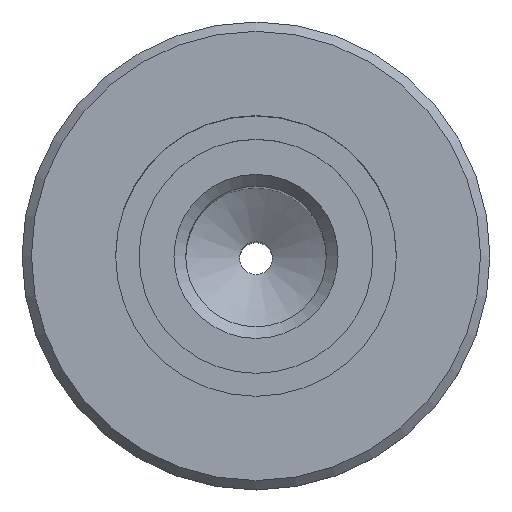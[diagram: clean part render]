
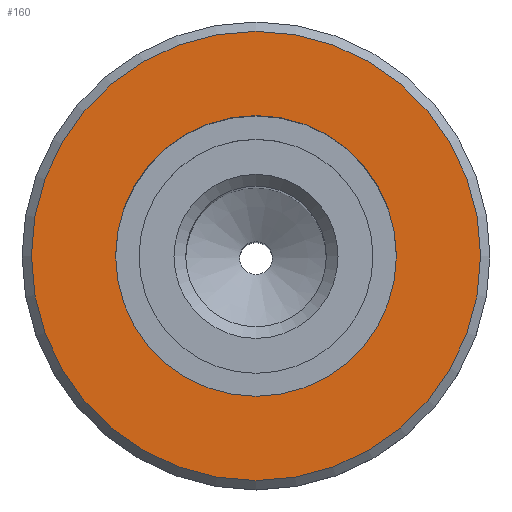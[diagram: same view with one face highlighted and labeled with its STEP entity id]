
A CAD part, top view. The second image highlights one B-rep face of the part: STEP entity #160.
In plain terms, the highlighted planar face has unit normal (0, 0, 1).
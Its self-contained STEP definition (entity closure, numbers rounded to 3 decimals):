
#31 = CONICAL_SURFACE('',#32,10.,0.785);
#32 = AXIS2_PLACEMENT_3D('',#33,#34,#35);
#33 = CARTESIAN_POINT('',(0.,0.,-0.4));
#34 = DIRECTION('',(-0.,0.,-1.));
#35 = DIRECTION('',(-1.,0.,0.));
#56 = VERTEX_POINT('',#57);
#57 = CARTESIAN_POINT('',(-9.6,0.,-0.));
#78 = EDGE_CURVE('',#56,#56,#79,.T.);
#79 = SURFACE_CURVE('',#80,(#85,#92),.PCURVE_S1.);
#80 = CIRCLE('',#81,9.6);
#81 = AXIS2_PLACEMENT_3D('',#82,#83,#84);
#82 = CARTESIAN_POINT('',(0.,0.,0.));
#83 = DIRECTION('',(-0.,0.,-1.));
#84 = DIRECTION('',(-1.,0.,0.));
#85 = PCURVE('',#31,#86);
#86 = DEFINITIONAL_REPRESENTATION('',(#87),#91);
#87 = LINE('',#88,#89);
#88 = CARTESIAN_POINT('',(0.,-0.4));
#89 = VECTOR('',#90,1.);
#90 = DIRECTION('',(1.,-0.));
#91 = ( GEOMETRIC_REPRESENTATION_CONTEXT(2) 
PARAMETRIC_REPRESENTATION_CONTEXT() REPRESENTATION_CONTEXT('2D SPACE',''
  ) );
#92 = PCURVE('',#93,#98);
#93 = PLANE('',#94);
#94 = AXIS2_PLACEMENT_3D('',#95,#96,#97);
#95 = CARTESIAN_POINT('',(0.,0.,0.));
#96 = DIRECTION('',(0.,0.,-1.));
#97 = DIRECTION('',(-1.,0.,0.));
#98 = DEFINITIONAL_REPRESENTATION('',(#99),#103);
#99 = CIRCLE('',#100,9.6);
#100 = AXIS2_PLACEMENT_2D('',#101,#102);
#101 = CARTESIAN_POINT('',(0.,0.));
#102 = DIRECTION('',(1.,0.));
#103 = ( GEOMETRIC_REPRESENTATION_CONTEXT(2) 
PARAMETRIC_REPRESENTATION_CONTEXT() REPRESENTATION_CONTEXT('2D SPACE',''
  ) );
#160 = ADVANCED_FACE('',(#161,#164),#93,.F.);
#161 = FACE_BOUND('',#162,.F.);
#162 = EDGE_LOOP('',(#163));
#163 = ORIENTED_EDGE('',*,*,#78,.T.);
#164 = FACE_BOUND('',#165,.F.);
#165 = EDGE_LOOP('',(#166));
#166 = ORIENTED_EDGE('',*,*,#167,.F.);
#167 = EDGE_CURVE('',#168,#168,#170,.T.);
#168 = VERTEX_POINT('',#169);
#169 = CARTESIAN_POINT('',(-6.,0.,-0.));
#170 = SURFACE_CURVE('',#171,(#176,#183),.PCURVE_S1.);
#171 = CIRCLE('',#172,6.);
#172 = AXIS2_PLACEMENT_3D('',#173,#174,#175);
#173 = CARTESIAN_POINT('',(0.,0.,0.));
#174 = DIRECTION('',(-0.,0.,-1.));
#175 = DIRECTION('',(-1.,0.,0.));
#176 = PCURVE('',#93,#177);
#177 = DEFINITIONAL_REPRESENTATION('',(#178),#182);
#178 = CIRCLE('',#179,6.);
#179 = AXIS2_PLACEMENT_2D('',#180,#181);
#180 = CARTESIAN_POINT('',(0.,0.));
#181 = DIRECTION('',(1.,0.));
#182 = ( GEOMETRIC_REPRESENTATION_CONTEXT(2) 
PARAMETRIC_REPRESENTATION_CONTEXT() REPRESENTATION_CONTEXT('2D SPACE',''
  ) );
#183 = PCURVE('',#184,#189);
#184 = CYLINDRICAL_SURFACE('',#185,6.);
#185 = AXIS2_PLACEMENT_3D('',#186,#187,#188);
#186 = CARTESIAN_POINT('',(0.,0.,0.));
#187 = DIRECTION('',(0.,0.,-1.));
#188 = DIRECTION('',(-1.,0.,0.));
#189 = DEFINITIONAL_REPRESENTATION('',(#190),#194);
#190 = LINE('',#191,#192);
#191 = CARTESIAN_POINT('',(0.,0.));
#192 = VECTOR('',#193,1.);
#193 = DIRECTION('',(1.,0.));
#194 = ( GEOMETRIC_REPRESENTATION_CONTEXT(2) 
PARAMETRIC_REPRESENTATION_CONTEXT() REPRESENTATION_CONTEXT('2D SPACE',''
  ) );
